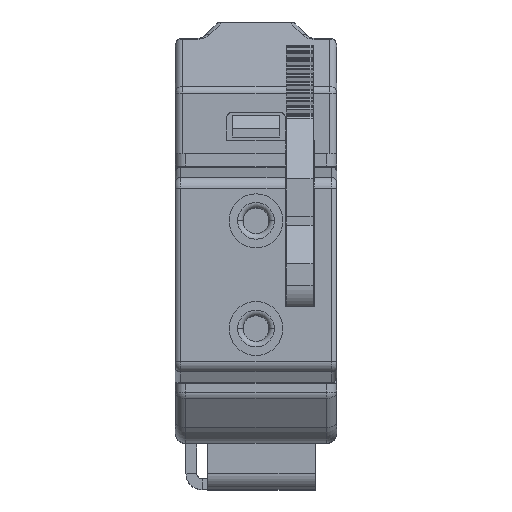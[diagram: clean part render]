
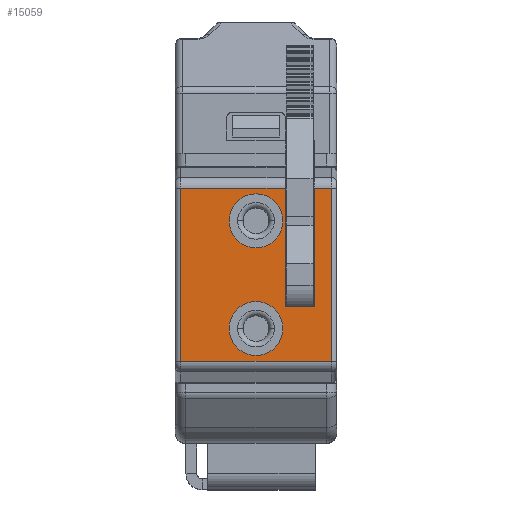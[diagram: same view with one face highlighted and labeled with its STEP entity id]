
A CAD part, top view. The second image highlights one B-rep face of the part: STEP entity #15059.
In plain terms, the highlighted planar face has unit normal (0, 0, 1).
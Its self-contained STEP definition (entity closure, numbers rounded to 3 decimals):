
#68 = ORIENTED_EDGE ( 'NONE', *, *, #4126, .F. ) ;
#102 = EDGE_CURVE ( 'NONE', #3691, #9850, #5112, .T. ) ;
#215 = CARTESIAN_POINT ( 'NONE',  ( -7.875, -40.97, 50.232 ) ) ;
#755 = EDGE_CURVE ( 'NONE', #9595, #26683, #8959, .T. ) ;
#898 = CIRCLE ( 'NONE', #6933, 2.5 ) ;
#1018 = VERTEX_POINT ( 'NONE', #6823 ) ;
#1780 = FACE_OUTER_BOUND ( 'NONE', #26106, .T. ) ;
#2334 = VERTEX_POINT ( 'NONE', #14121 ) ;
#2435 = CARTESIAN_POINT ( 'NONE',  ( -10.375, -38.97, 50.232 ) ) ;
#2685 = CARTESIAN_POINT ( 'NONE',  ( -17.375, -43.47, 50.232 ) ) ;
#2789 = CARTESIAN_POINT ( 'NONE',  ( -3.375, -27.934, 50.232 ) ) ;
#2966 = AXIS2_PLACEMENT_3D ( 'NONE', #20118, #9564, #11602 ) ;
#3053 = CARTESIAN_POINT ( 'NONE',  ( -2.875, -44.005, 50.232 ) ) ;
#3432 = EDGE_LOOP ( 'NONE', ( #16229, #23147 ) ) ;
#3691 = VERTEX_POINT ( 'NONE', #17128 ) ;
#3918 = LINE ( 'NONE', #11128, #17982 ) ;
#4126 = EDGE_CURVE ( 'NONE', #5291, #18245, #11624, .T. ) ;
#4570 = DIRECTION ( 'NONE',  ( 0., 1., 0. ) ) ;
#5112 = CIRCLE ( 'NONE', #2966, 2.5 ) ;
#5291 = VERTEX_POINT ( 'NONE', #215 ) ;
#5380 = CIRCLE ( 'NONE', #8092, 2.5 ) ;
#6177 = DIRECTION ( 'NONE',  ( -1., 0., 0. ) ) ;
#6341 = CARTESIAN_POINT ( 'NONE',  ( -2.875, -27.934, 50.232 ) ) ;
#6365 = EDGE_CURVE ( 'NONE', #9595, #2334, #12888, .T. ) ;
#6823 = CARTESIAN_POINT ( 'NONE',  ( -17.375, -27.934, 50.232 ) ) ;
#6933 = AXIS2_PLACEMENT_3D ( 'NONE', #10260, #9970, #20595 ) ;
#7197 = LINE ( 'NONE', #2435, #17695 ) ;
#7407 = CARTESIAN_POINT ( 'NONE',  ( -4.975, -27.934, 50.232 ) ) ;
#7564 = DIRECTION ( 'NONE',  ( -1., 0., 0. ) ) ;
#7566 = CARTESIAN_POINT ( 'NONE',  ( -3.375, -44.005, 50.232 ) ) ;
#7912 = AXIS2_PLACEMENT_3D ( 'NONE', #12538, #26763, #10143 ) ;
#8092 = AXIS2_PLACEMENT_3D ( 'NONE', #23432, #8893, #11202 ) ;
#8145 = CARTESIAN_POINT ( 'NONE',  ( -2.875, -43.47, 50.232 ) ) ;
#8394 = VECTOR ( 'NONE', #15065, 1000. ) ;
#8413 = EDGE_CURVE ( 'NONE', #26818, #20251, #3918, .T. ) ;
#8893 = DIRECTION ( 'NONE',  ( 0., 0., 1. ) ) ;
#8959 = LINE ( 'NONE', #2789, #20121 ) ;
#9128 = LINE ( 'NONE', #10929, #15997 ) ;
#9303 = ORIENTED_EDGE ( 'NONE', *, *, #15736, .T. ) ;
#9564 = DIRECTION ( 'NONE',  ( 0., 0., 1. ) ) ;
#9595 = VERTEX_POINT ( 'NONE', #7566 ) ;
#9709 = LINE ( 'NONE', #2685, #8394 ) ;
#9850 = VERTEX_POINT ( 'NONE', #13058 ) ;
#9970 = DIRECTION ( 'NONE',  ( 0., 0., 1. ) ) ;
#10143 = DIRECTION ( 'NONE',  ( -1., 0., 0. ) ) ;
#10260 = CARTESIAN_POINT ( 'NONE',  ( -10.375, -30.97, 50.232 ) ) ;
#10929 = CARTESIAN_POINT ( 'NONE',  ( -4.975, -33.47, 50.232 ) ) ;
#11128 = CARTESIAN_POINT ( 'NONE',  ( -7.675, -33.47, 50.232 ) ) ;
#11202 = DIRECTION ( 'NONE',  ( -1., 0., 0. ) ) ;
#11602 = DIRECTION ( 'NONE',  ( -1., 0., 0. ) ) ;
#11624 = CIRCLE ( 'NONE', #7912, 2.5 ) ;
#11655 = CARTESIAN_POINT ( 'NONE',  ( -4.975, -38.97, 50.232 ) ) ;
#12172 = LINE ( 'NONE', #13601, #21942 ) ;
#12218 = EDGE_CURVE ( 'NONE', #21690, #24014, #9128, .T. ) ;
#12460 = CARTESIAN_POINT ( 'NONE',  ( -7.675, -27.934, 50.232 ) ) ;
#12538 = CARTESIAN_POINT ( 'NONE',  ( -10.375, -40.97, 50.232 ) ) ;
#12735 = DIRECTION ( 'NONE',  ( -1., 0., 0. ) ) ;
#12856 = ORIENTED_EDGE ( 'NONE', *, *, #18379, .T. ) ;
#12869 = FACE_BOUND ( 'NONE', #18931, .T. ) ;
#12888 = LINE ( 'NONE', #3053, #16084 ) ;
#13058 = CARTESIAN_POINT ( 'NONE',  ( -7.875, -30.97, 50.232 ) ) ;
#13068 = CARTESIAN_POINT ( 'NONE',  ( -7.675, -38.97, 50.232 ) ) ;
#13347 = CARTESIAN_POINT ( 'NONE',  ( -12.875, -40.97, 50.232 ) ) ;
#13601 = CARTESIAN_POINT ( 'NONE',  ( -2.875, -27.934, 50.232 ) ) ;
#13699 = EDGE_CURVE ( 'NONE', #9850, #3691, #898, .T. ) ;
#14078 = ORIENTED_EDGE ( 'NONE', *, *, #6365, .F. ) ;
#14121 = CARTESIAN_POINT ( 'NONE',  ( -17.375, -44.005, 50.232 ) ) ;
#15059 = ADVANCED_FACE ( 'NONE', ( #12869, #1780, #26235 ), #22684, .F. ) ;
#15065 = DIRECTION ( 'NONE',  ( 0., -1., 0. ) ) ;
#15736 = EDGE_CURVE ( 'NONE', #1018, #2334, #9709, .T. ) ;
#15882 = AXIS2_PLACEMENT_3D ( 'NONE', #8145, #20524, #6177 ) ;
#15997 = VECTOR ( 'NONE', #24795, 1000. ) ;
#16084 = VECTOR ( 'NONE', #24016, 1000. ) ;
#16229 = ORIENTED_EDGE ( 'NONE', *, *, #13699, .F. ) ;
#17026 = DIRECTION ( 'NONE',  ( -1., 0., 0. ) ) ;
#17128 = CARTESIAN_POINT ( 'NONE',  ( -12.875, -30.97, 50.232 ) ) ;
#17394 = DIRECTION ( 'NONE',  ( 0., 1., 0. ) ) ;
#17664 = EDGE_CURVE ( 'NONE', #18245, #5291, #5380, .T. ) ;
#17695 = VECTOR ( 'NONE', #17026, 1000. ) ;
#17734 = LINE ( 'NONE', #6341, #25884 ) ;
#17982 = VECTOR ( 'NONE', #4570, 1000. ) ;
#18245 = VERTEX_POINT ( 'NONE', #13347 ) ;
#18379 = EDGE_CURVE ( 'NONE', #20251, #1018, #12172, .T. ) ;
#18931 = EDGE_LOOP ( 'NONE', ( #68, #25947 ) ) ;
#20118 = CARTESIAN_POINT ( 'NONE',  ( -10.375, -30.97, 50.232 ) ) ;
#20121 = VECTOR ( 'NONE', #17394, 1000. ) ;
#20145 = ORIENTED_EDGE ( 'NONE', *, *, #21997, .T. ) ;
#20251 = VERTEX_POINT ( 'NONE', #12460 ) ;
#20308 = ORIENTED_EDGE ( 'NONE', *, *, #8413, .T. ) ;
#20524 = DIRECTION ( 'NONE',  ( 0., 0., -1. ) ) ;
#20560 = ORIENTED_EDGE ( 'NONE', *, *, #26186, .T. ) ;
#20595 = DIRECTION ( 'NONE',  ( -1., 0., 0. ) ) ;
#21112 = CARTESIAN_POINT ( 'NONE',  ( -3.375, -27.934, 50.232 ) ) ;
#21646 = ORIENTED_EDGE ( 'NONE', *, *, #755, .T. ) ;
#21690 = VERTEX_POINT ( 'NONE', #7407 ) ;
#21942 = VECTOR ( 'NONE', #7564, 1000. ) ;
#21997 = EDGE_CURVE ( 'NONE', #26683, #21690, #17734, .T. ) ;
#22684 = PLANE ( 'NONE',  #15882 ) ;
#23147 = ORIENTED_EDGE ( 'NONE', *, *, #102, .F. ) ;
#23432 = CARTESIAN_POINT ( 'NONE',  ( -10.375, -40.97, 50.232 ) ) ;
#24014 = VERTEX_POINT ( 'NONE', #11655 ) ;
#24016 = DIRECTION ( 'NONE',  ( -1., 0., 0. ) ) ;
#24795 = DIRECTION ( 'NONE',  ( 0., -1., 0. ) ) ;
#25707 = ORIENTED_EDGE ( 'NONE', *, *, #12218, .T. ) ;
#25884 = VECTOR ( 'NONE', #12735, 1000. ) ;
#25947 = ORIENTED_EDGE ( 'NONE', *, *, #17664, .F. ) ;
#26106 = EDGE_LOOP ( 'NONE', ( #12856, #9303, #14078, #21646, #20145, #25707, #20560, #20308 ) ) ;
#26186 = EDGE_CURVE ( 'NONE', #24014, #26818, #7197, .T. ) ;
#26235 = FACE_BOUND ( 'NONE', #3432, .T. ) ;
#26683 = VERTEX_POINT ( 'NONE', #21112 ) ;
#26763 = DIRECTION ( 'NONE',  ( 0., 0., 1. ) ) ;
#26818 = VERTEX_POINT ( 'NONE', #13068 ) ;
